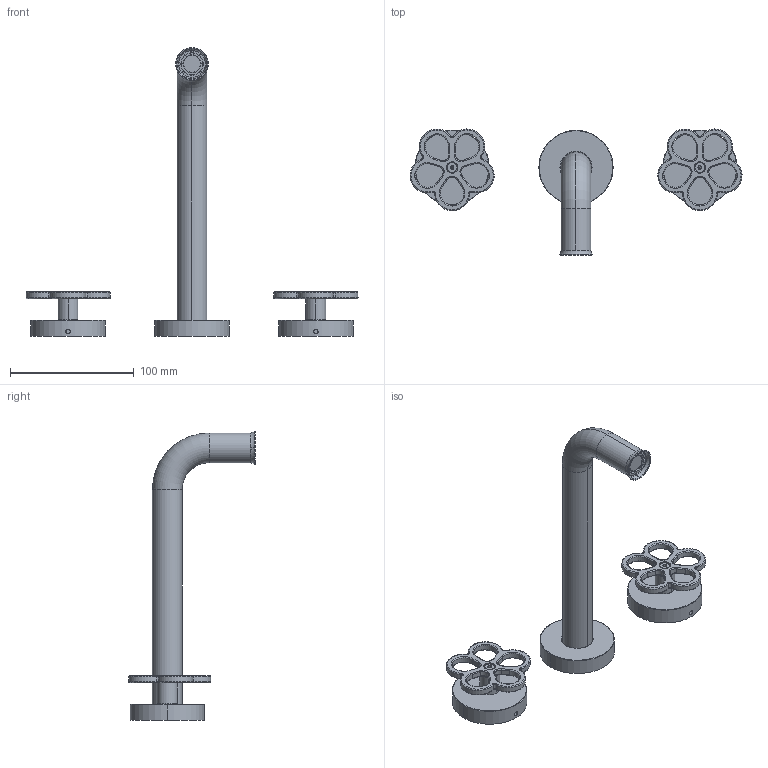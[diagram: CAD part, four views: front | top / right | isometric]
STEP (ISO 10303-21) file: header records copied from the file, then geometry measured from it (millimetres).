
FILE_DESCRIPTION((''),'2;1');
FILE_NAME('20930T413B000000_SW0004','2023-01-31T16:23:06',('matteo.follador'),(''),'CREO PARAMETRIC BY PTC INC, 2020281','CREO PARAMETRIC BY PTC INC, 2020281','');
FILE_SCHEMA(('AUTOMOTIVE_DESIGN { 1 0 10303 214 1 1 1 1 }'));
Length unit declared in the file: millimetre
Products named in the file (1): 20930T413B000000_SW0004
Bounding box: 267.92 x 102.02 x 233.22 mm (x, y, z)
Volume: 177986.9 mm3; surface area: 78616.2 mm2
Topology: 3 solids, 9 shells, 486 faces, 1116 edges, 657 vertices
Faces by surface type: cylinder 174, plane 136, torus 110, cone 62, bspline 4
Entity records: 18451 total; most frequent: CARTESIAN_POINT 3830, DIRECTION 2696, ORIENTED_EDGE 2220, AXIS2_PLACEMENT_3D 1140, EDGE_CURVE 1110, VERTEX_POINT 657, CIRCLE 648, EDGE_LOOP 527
